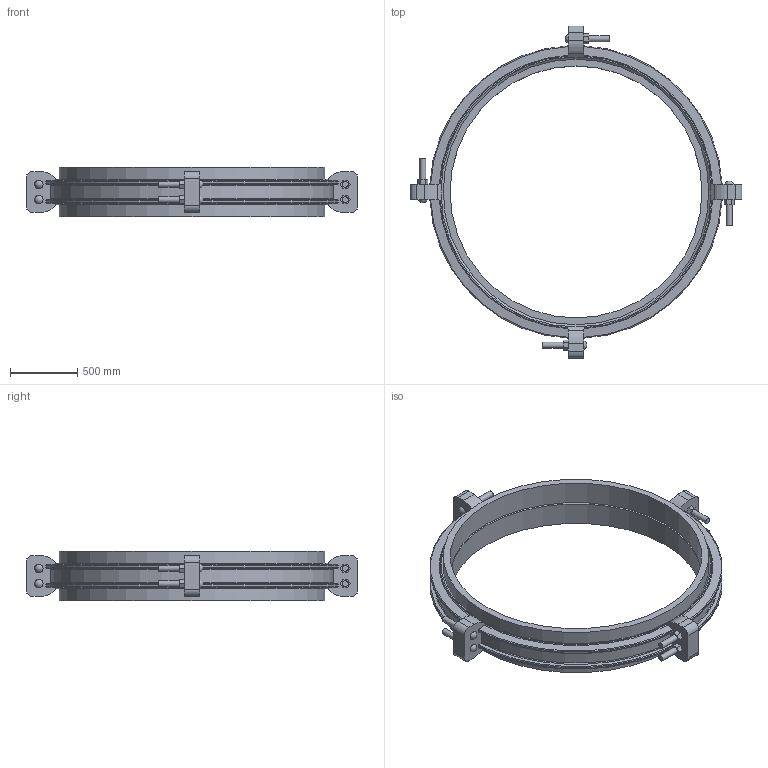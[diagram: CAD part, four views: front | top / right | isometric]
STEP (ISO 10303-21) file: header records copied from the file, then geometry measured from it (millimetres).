
FILE_DESCRIPTION(/* description */ ('VIC COUPLING FLEX STYLE W77 AGS VIC-RING ','CAx-IF Rec.Pracs.---Representation and Presentation of Product Manufacturing Information (PMI)---4.0---2014-10-13'),/* implementation_level */ '2;1');
FILE_NAME(/* name */ 'C:\Users\Vjadhav\AppData\Roaming\Autodesk\ApplicationPlugins\Victaulic.Temp\A52\Victaulic_Vic-Ring_Coupling Flexible_Style W77 (AGR)_78 (1950).stp',/* time_stamp */ '2021-12-20T11:07:46+06:00',/* author */ ('Vjadhav'),/* organization */ ('Victaulic'),/* preprocessor_version */ 'ST-DEVELOPER v17.2',/* originating_system */ 'Autodesk Inventor 2019',/* authorisation */ '');
FILE_SCHEMA (('AP242_MANAGED_MODEL_BASED_3D_ENGINEERING_MIM_LF { 1 0 10303 442 1 1 4 }'));
Length unit declared in the file: inch
Products named in the file (3): W77 VR-78.0; W77-VR-78.0; W77 VR-78.0_1
Assembly tree (3 placements, depth 2):
  W77 VR-78.0
    W77-VR-78.0
    W77 VR-78.0_1  x2
Bounding box: 2476.5 x 2476.5 x 367.54 mm (x, y, z)
Volume: 224002976.3 mm3; surface area: 10628724.3 mm2
Topology: 3 solids, 19 shells, 287 faces, 705 edges, 480 vertices
Faces by surface type: plane 138, cylinder 91, torus 32, cone 18, sphere 8
Full cylindrical faces by diameter (mm): 44.45 x8, 63.5 x8, 1879.6 x2, 1962.15 x1, 1981.2 x4
Entity records: 9773 total; most frequent: CARTESIAN_POINT 2608, DIRECTION 1433, ORIENTED_EDGE 1390, EDGE_CURVE 695, AXIS2_PLACEMENT_3D 545, VERTEX_POINT 472, LINE 343, VECTOR 343
